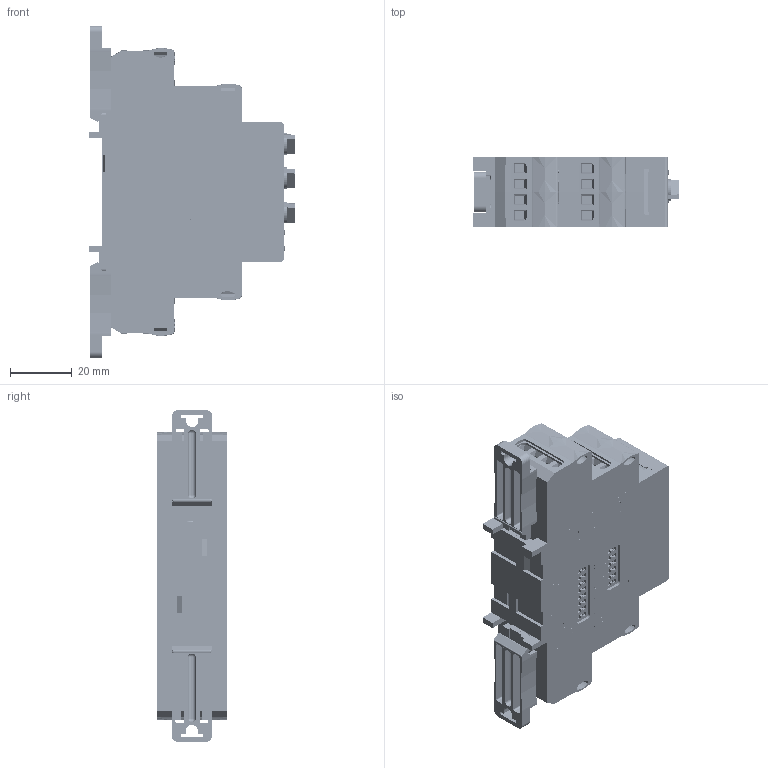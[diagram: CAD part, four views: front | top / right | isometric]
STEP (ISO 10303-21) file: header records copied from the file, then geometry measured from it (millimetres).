
FILE_DESCRIPTION(('STEP AP203'), '1');
FILE_NAME('栖闉罻_陔3-22', '', ('UNSPECIFIED'), ('UNSPECIFIED'), 'ASCON STEP Converter 1.6', 'ASCON Math Kernel', '');
FILE_SCHEMA(('CONFIG_CONTROL_DESIGN'));
Length unit declared in the file: millimetre
Products named in the file (19): Case13-18-23mm_2step_Half_v01a_Build20140909_1552_11.25mm
Assembly tree (30 placements, depth 3):
  (unnamed)
    Case13-18-23mm_2step_Half_v01a_Build20140909_1552_11.25mm
    (unnamed)  x2
    Case13-18-23mm_2step_Half_v01a_Build20140909_1552_11.25mm
    (unnamed)  x2
    (unnamed)  x4
      (unnamed)
    (unnamed)
    (unnamed)  x3
    (unnamed)  x3
    (unnamed)
    (unnamed)
    (unnamed)
    (unnamed)
    (unnamed)
    (unnamed)
    (unnamed)
    (unnamed)
    (unnamed)
Bounding box: 66.25 x 22.52 x 107.2 mm (x, y, z)
Volume: 30302.6 mm3; surface area: 50754.7 mm2
Topology: 654 solids, 654 shells, 23671 faces, 66542 edges, 44235 vertices
Faces by surface type: plane 17086, extrusion 6163, cylinder 333, cone 51, torus 26, sphere 8, bspline 4
Full cylindrical faces by diameter (mm): 1.238 x16, 2.1 x8, 3.9 x16, 4.5 x3, 5 x3
Entity records: 938675 total; most frequent: CARTESIAN_POINT 188836, ORIENTED_EDGE 127874, DIRECTION 91212, EDGE_CURVE 63937, VECTOR 57246, LINE 51083, VERTEX_POINT 42597, EDGE_LOOP 23240
